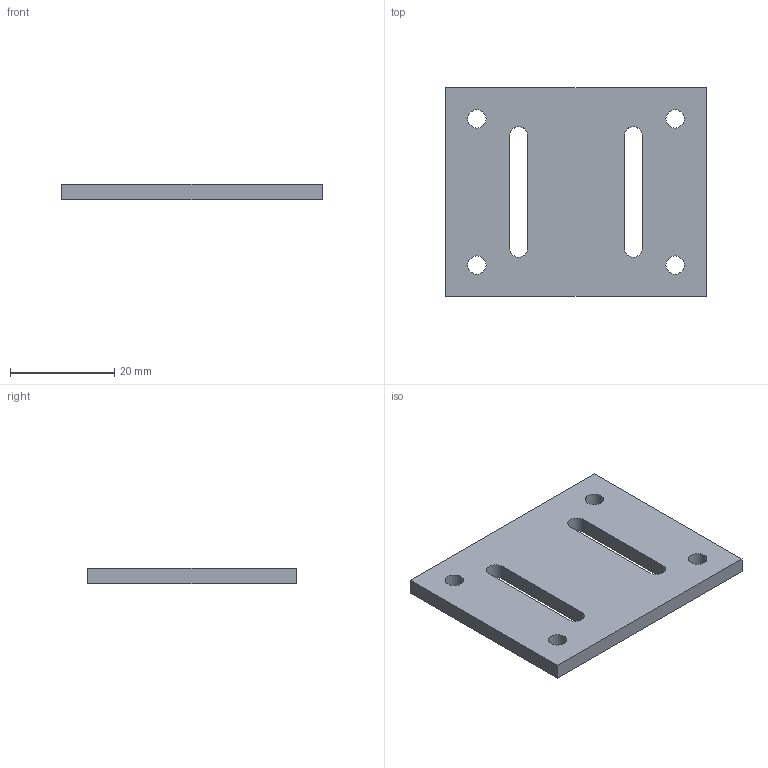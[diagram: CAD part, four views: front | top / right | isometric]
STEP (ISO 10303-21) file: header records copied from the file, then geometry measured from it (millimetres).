
FILE_DESCRIPTION(('Open CASCADE Model'),'2;1');
FILE_NAME('Open CASCADE Shape Model','2026-10-15T18:22:08',('Author'),( 'Open CASCADE'),'Open CASCADE STEP processor 7.9','Open CASCADE 7.9' ,'Unknown');
FILE_SCHEMA(('AUTOMOTIVE_DESIGN { 1 0 10303 214 1 1 1 1 }'));
Length unit declared in the file: millimetre
Products named in the file (1): Open CASCADE STEP translator 7.9 11
Bounding box: 50 x 40 x 3 mm (x, y, z)
Volume: 5375.3 mm3; surface area: 4579.5 mm2
Topology: 1 solids, 1 shells, 18 faces, 48 edges, 32 vertices
Faces by surface type: plane 10, cylinder 8
Full cylindrical faces by diameter (mm): 3.5 x4
Entity records: 1234 total; most frequent: CARTESIAN_POINT 259, DIRECTION 174, ORIENTED_EDGE 96, LINE 96, VECTOR 96, PCURVE 96, DEFINITIONAL_REPRESENTATION 96, EDGE_CURVE 48
